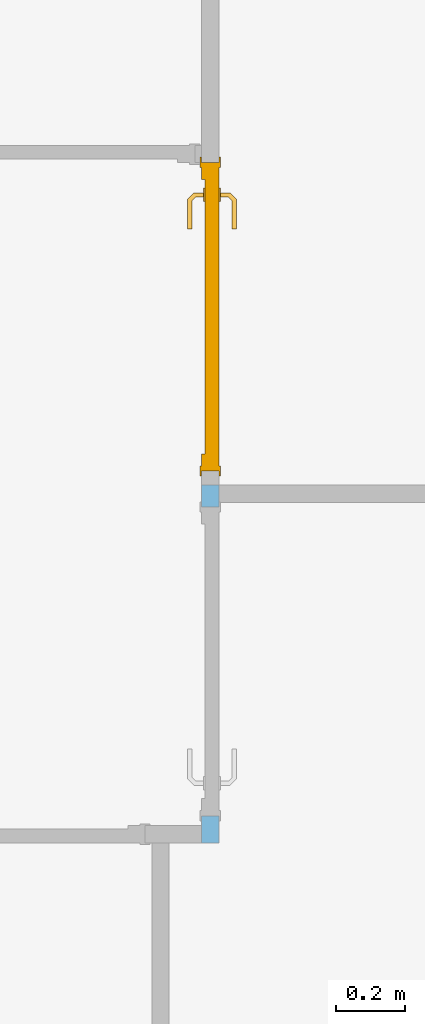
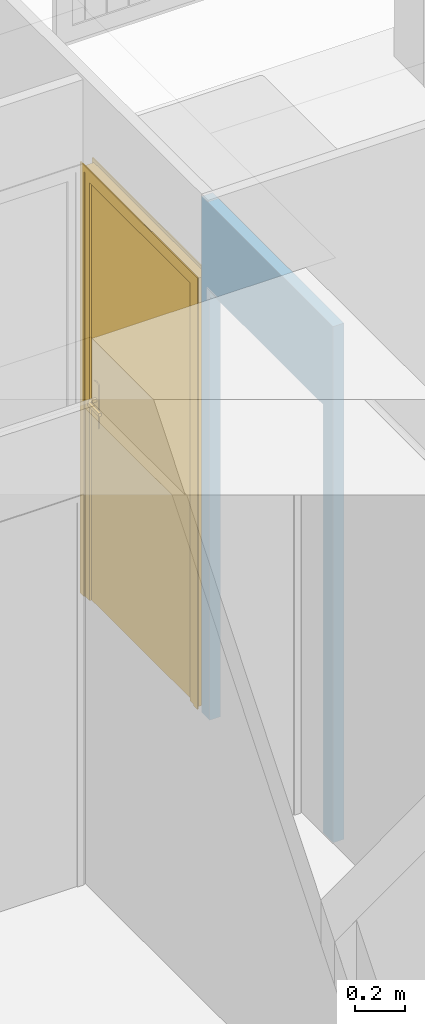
# One storey, part 6 of 11: 1 door, 2 openings, plus 1 element that does not belong to this part.
"""IFC2X3 building model written with IfcOpenShell, lengths in metres."""

from ifc_helpers import new_model, entity, si_unit, converted_unit, derived_unit, direction, frame, frame_2d, origin, place, context, subcontext, project, spatial, polyline, rectangle, extrude, clip, bounded_halfspace, faceted_brep, source, transform, mapped, material, material_list, layer, layer_set, layer_usage, type_object, type_shapes, element, fill, save


model = new_model("IFC2X3")

# Units and contexts
model_context = context("Model", 3, precision=1e-05, world=origin(), true_north=direction((6.12303176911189e-17, 1.0)))
body_context = subcontext(model_context, "Body", "Model", "MODEL_VIEW")
ifc_project = project(units=[si_unit("LENGTHUNIT", "METRE"), si_unit("AREAUNIT", "SQUARE_METRE"), si_unit("VOLUMEUNIT", "CUBIC_METRE"), converted_unit("PLANEANGLEUNIT", "DEGREE", entity("IfcRatioMeasure", 0.0174532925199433), si_unit("PLANEANGLEUNIT", "RADIAN"), dimensions=[0, 0, 0, 0, 0, 0, 0]), si_unit("MASSUNIT", "GRAM", prefix="KILO"), derived_unit("MASSDENSITYUNIT", [(si_unit("MASSUNIT", "GRAM", prefix="KILO"), 1), (si_unit("LENGTHUNIT", "METRE"), -3)]), derived_unit("MOMENTOFINERTIAUNIT", [(si_unit("LENGTHUNIT", "METRE"), 4)]), si_unit("TIMEUNIT", "SECOND"), si_unit("FREQUENCYUNIT", "HERTZ"), si_unit("THERMODYNAMICTEMPERATUREUNIT", "DEGREE_CELSIUS"), derived_unit("THERMALTRANSMITTANCEUNIT", [(si_unit("MASSUNIT", "GRAM", prefix="KILO"), 1), (si_unit("THERMODYNAMICTEMPERATUREUNIT", "KELVIN"), -1), (si_unit("TIMEUNIT", "SECOND"), -3)]), derived_unit("VOLUMETRICFLOWRATEUNIT", [(si_unit("LENGTHUNIT", "METRE"), 3), (si_unit("TIMEUNIT", "SECOND"), -1)]), si_unit("ELECTRICCURRENTUNIT", "AMPERE"), si_unit("ELECTRICVOLTAGEUNIT", "VOLT"), si_unit("POWERUNIT", "WATT"), si_unit("FORCEUNIT", "NEWTON", prefix="KILO"), si_unit("ILLUMINANCEUNIT", "LUX"), si_unit("LUMINOUSFLUXUNIT", "LUMEN"), si_unit("LUMINOUSINTENSITYUNIT", "CANDELA"), derived_unit("USERDEFINED", [(si_unit("MASSUNIT", "GRAM", prefix="KILO"), -1), (si_unit("LENGTHUNIT", "METRE"), -2), (si_unit("TIMEUNIT", "SECOND"), 3), (si_unit("LUMINOUSFLUXUNIT", "LUMEN"), 1)]), derived_unit("LINEARVELOCITYUNIT", [(si_unit("LENGTHUNIT", "METRE"), 1), (si_unit("TIMEUNIT", "SECOND"), -1)]), si_unit("PRESSUREUNIT", "PASCAL"), derived_unit("USERDEFINED", [(si_unit("LENGTHUNIT", "METRE"), -2), (si_unit("MASSUNIT", "GRAM", prefix="KILO"), 1), (si_unit("TIMEUNIT", "SECOND"), -2)]), derived_unit("LINEARFORCEUNIT", [(si_unit("MASSUNIT", "GRAM", prefix="KILO"), 1), (si_unit("LENGTHUNIT", "METRE"), 1), (si_unit("TIMEUNIT", "SECOND"), -2), (si_unit("LENGTHUNIT", "METRE"), -1)]), derived_unit("PLANARFORCEUNIT", [(si_unit("MASSUNIT", "GRAM", prefix="KILO"), 1), (si_unit("LENGTHUNIT", "METRE"), 1), (si_unit("TIMEUNIT", "SECOND"), -2), (si_unit("LENGTHUNIT", "METRE"), -2)])], contexts=[model_context])

# Site, building, storey
site_placement = place(None, origin())
site = spatial("IfcSite", under=ifc_project, at=site_placement, Name="Surface", CompositionType="ELEMENT")
building_placement = place(site_placement, origin())
building = spatial("IfcBuilding", under=site, at=building_placement, CompositionType="ELEMENT")
storey_placement = place(building_placement, frame((0.0, 0.0, 2.72)))
storey = spatial("IfcBuildingStorey", under=building, at=storey_placement, Name="02 ETG", CompositionType="ELEMENT", Elevation=2.72)

# Wall, openings, door
ifc_material_1 = material(Name="Mur par défaut")
ifc_layer = layer(ifc_material_1, 0.05)
ifc_layer_set = layer_set([ifc_layer], Name="Mur de base:Int. Plâtre 50 mm")
ifc_layer_usage = layer_usage(ifc_layer_set, "AXIS2", "NEGATIVE", 0.025)
wall_type = type_object("IfcWallType", Name="Mur de base:Int. Plâtre 50 mm", PredefinedType="STANDARD", material=ifc_layer_set)
wall_placement = place(storey_placement, frame((9.81156158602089, -0.105960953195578, 0.0), z_axis=(0.0, 0.0, 1.0), x_axis=(0.0, -1.0, 0.0)))
wall = element("IfcWallStandardCase", 1, at=wall_placement, inside=storey, type_object=wall_type, material=ifc_layer_usage, Name="Mur de base:Int. Plâtre 50 mm", ObjectType="Mur de base:Int. Plâtre 50 mm", context=body_context, shape_type="Clipping", body=[
    clip(extrude(rectangle(XDim=1.04249999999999, YDim=0.0500000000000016, at=frame_2d((0.521249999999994, -3.12250225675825e-16), x_axis=(-1.0, 0.0))), origin(), (0.0, 0.0, 1.0), 2.5), bounded_halfspace(frame((0.0, -0.0249999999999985, 2.5), z_axis=(0.0, 0.0, -1.0), x_axis=(0.0, 1.0, 0.0)), True, frame((0.0, -0.0249999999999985, 2.5)), polyline([(0.0, 0.0), (0.05, 0.0), (0.992499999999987, 0.0), (1.01749999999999, 0.0), (1.01749999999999, 0.0250000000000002), (0.0, 0.0249999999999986), (0.0, 0.0)]))),
])
opening_1_placement = place(wall_placement, frame((0.0637499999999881, -0.0250000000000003, 0.0)))
element("IfcOpeningElement", 2, at=opening_1_placement, cuts=wall, Name="Int. Simple:Porte pleine parement lisse bois prépeinte:1", ObjectType="Opening", context=body_context, shape_type="SweptSolid", body=[
    extrude(rectangle(XDim=2.075, YDim=0.9, at=frame_2d((1.0375, 0.45), x_axis=(1.0, 0.0))), frame((0.0, 0.0, 0.0), z_axis=(0.0, 1.0, 0.0), x_axis=(0.0, 0.0, 1.0)), (0.0, 0.0, 1.0), 0.05),
])
opening_2_placement = place(wall_placement, frame((-0.941050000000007, -0.0249999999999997, 0.0)))
opening_2 = element("IfcOpeningElement", 3, at=opening_2_placement, cuts=wall, Name="Int. Simple:Porte pleine parement lisse bois prépeinte:1", ObjectType="Opening", context=body_context, shape_type="SweptSolid", body=[
    extrude(rectangle(XDim=2.075, YDim=0.9, at=frame_2d((1.0375, 0.45), x_axis=(1.0, 0.0))), frame((0.0, 0.0, 0.0), z_axis=(0.0, 1.0, 0.0), x_axis=(0.0, 0.0, 1.0)), (0.0, 0.0, 1.0), 0.05),
])
ifc_material_2 = material(Name="Finition Peinture - Blanc satiné")
ifc_material_3 = material(Name="Bois - Panneau de porte")
ifc_material_4 = material(Name="Bois - Cadre de porte")
ifc_material_list_1 = material_list([ifc_material_2, ifc_material_3, ifc_material_4])
ifc_material_list_2 = material_list([ifc_material_2, ifc_material_4, ifc_material_3, ifc_material_4])
door_style = type_object("IfcDoorStyle", Name="Int. Simple:Porte pleine parement lisse bois prépeinte", ConstructionType="NOTDEFINED", OperationType="NOTDEFINED", ParameterTakesPrecedence=False, Sizeable=False, material=ifc_material_list_2)
shared_shape = source(origin(), body_context, "Body", "Brep", [
    faceted_brep([(0.895000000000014, -0.00500000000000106, 0.870000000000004), (0.895000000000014, -0.00500000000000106, 1.08), (0.885352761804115, -0.00500000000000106, 1.08399601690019), (0.875000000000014, -0.00500000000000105, 1.08535898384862), (0.864647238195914, -0.00500000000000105, 1.08399601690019), (0.855000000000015, -0.00500000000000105, 1.08), (0.855000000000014, -0.00500000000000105, 0.870000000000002), (0.864647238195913, -0.00500000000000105, 0.866003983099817), (0.875000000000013, -0.00500000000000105, 0.86464101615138), (0.885352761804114, -0.00500000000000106, 0.866003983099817), (0.895000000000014, 0.0, 1.08), (0.895000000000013, 0.0, 0.870000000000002), (0.885352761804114, 0.0, 0.866003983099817), (0.875000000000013, 0.0, 0.86464101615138), (0.864647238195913, 0.0, 0.866003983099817), (0.855000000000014, 0.0, 0.870000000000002), (0.855000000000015, 0.0, 1.08), (0.864647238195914, 0.0, 1.08399601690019), (0.875000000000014, 0.0, 1.08535898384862), (0.885352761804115, 0.0, 1.08399601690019)], [[[0, 1, 2, 3, 4, 5, 6, 7, 8, 9]], [[10, 11, 12, 13, 14, 15, 16, 17, 18, 19]], [[9, 12, 11, 0]], [[8, 13, 12, 9]], [[7, 14, 13, 8]], [[7, 6, 15, 14]], [[15, 6, 5, 16]], [[4, 17, 16, 5]], [[3, 18, 17, 4]], [[2, 19, 18, 3]], [[2, 1, 10, 19]], [[11, 10, 1, 0]]]),
    faceted_brep([(0.895000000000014, 0.0399999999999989, 0.870000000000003), (0.895000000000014, 0.0399999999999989, 1.08), (0.885352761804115, 0.0399999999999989, 1.08399601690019), (0.875000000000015, 0.0399999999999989, 1.08535898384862), (0.864647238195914, 0.0399999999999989, 1.08399601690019), (0.855000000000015, 0.0399999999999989, 1.08), (0.855000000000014, 0.0399999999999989, 0.870000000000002), (0.864647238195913, 0.0399999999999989, 0.866003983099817), (0.875000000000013, 0.0399999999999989, 0.86464101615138), (0.885352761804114, 0.0399999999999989, 0.866003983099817), (0.875000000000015, 0.0449999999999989, 1.08535898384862), (0.885352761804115, 0.0449999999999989, 1.08399601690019), (0.895000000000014, 0.0449999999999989, 1.08), (0.895000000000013, 0.0449999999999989, 0.870000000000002), (0.885352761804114, 0.0449999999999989, 0.866003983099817), (0.875000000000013, 0.0449999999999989, 0.86464101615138), (0.864647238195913, 0.0449999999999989, 0.866003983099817), (0.855000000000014, 0.0449999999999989, 0.870000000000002), (0.855000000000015, 0.0449999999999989, 1.08), (0.864647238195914, 0.0449999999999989, 1.08399601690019)], [[[0, 1, 2, 3, 4, 5, 6, 7, 8, 9]], [[10, 11, 12, 13, 14, 15, 16, 17, 18, 19]], [[4, 19, 18, 5]], [[3, 10, 19, 4]], [[2, 11, 10, 3]], [[2, 1, 12, 11]], [[13, 12, 1, 0]], [[9, 14, 13, 0]], [[8, 15, 14, 9]], [[7, 16, 15, 8]], [[7, 6, 17, 16]], [[17, 6, 5, 18]]]),
    faceted_brep([(0.872974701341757, -0.0050000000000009, 1.00778044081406), (0.877025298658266, -0.00500000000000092, 1.00778044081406), (0.881000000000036, -0.00500000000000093, 1.00699999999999), (0.881000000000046, -0.00500000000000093, 0.992999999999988), (0.877025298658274, -0.00500000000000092, 0.99221955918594), (0.872974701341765, -0.0050000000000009, 0.992219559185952), (0.868999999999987, -0.00500000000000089, 0.993000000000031), (0.868999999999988, -0.00500000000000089, 1.007), (0.877025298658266, -0.0310045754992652, 1.00778044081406), (0.881000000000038, -0.0326509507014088, 1.007), (0.872974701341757, -0.0293267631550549, 1.00778044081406), (0.859298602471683, -0.0430028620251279, 1.00778044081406), (0.860976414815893, -0.0470534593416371, 1.00778044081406), (0.868999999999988, -0.0276803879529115, 1.007), (0.868999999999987, -0.0276803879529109, 0.993000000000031), (0.872974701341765, -0.0293267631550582, 0.992219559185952), (0.877025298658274, -0.0310045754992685, 0.99221955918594), (0.860976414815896, -0.047053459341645, 0.99221955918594), (0.859298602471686, -0.0430028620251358, 0.992219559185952), (0.881000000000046, -0.0326509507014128, 0.992999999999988), (0.862622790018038, -0.0510281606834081, 1.007), (0.85765222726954, -0.0390281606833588, 1.007), (0.857652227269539, -0.0390281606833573, 0.993000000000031), (0.862622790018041, -0.0510281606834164, 0.992999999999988), (0.774981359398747, -0.0510281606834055, 1.007), (0.774981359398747, -0.0470534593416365, 1.00778044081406), (0.774981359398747, -0.0430028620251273, 1.00778044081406), (0.774981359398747, -0.0390281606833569, 1.00699999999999), (0.774981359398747, -0.0390281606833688, 0.993000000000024), (0.774981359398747, -0.0430028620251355, 0.992219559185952), (0.774981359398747, -0.0470534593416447, 0.99221955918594), (0.774981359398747, -0.0510281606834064, 0.992999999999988), (0.81713998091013, -0.045028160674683, 1.0078786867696), (0.822692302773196, -0.051028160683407, 1.007), (0.816316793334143, -0.039028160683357, 1.007), (0.816316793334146, -0.0390281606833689, 0.993000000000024), (0.817139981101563, -0.0450281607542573, 0.992121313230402), (0.822692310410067, -0.0510281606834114, 0.992999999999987)], [[[0, 1, 2, 3, 4, 5, 6, 7]], [[2, 1, 8, 9]], [[1, 0, 10, 11, 12, 8]], [[0, 7, 13, 10]], [[14, 13, 7, 6]], [[5, 15, 14, 6]], [[5, 4, 16, 17, 18, 15]], [[3, 19, 16, 4]], [[9, 19, 3, 2]], [[9, 8, 12, 20]], [[10, 13, 21, 11]], [[22, 21, 13, 14]], [[14, 15, 18, 22]], [[16, 19, 23, 17]], [[20, 23, 19, 9]], [[24, 25, 26, 27, 28, 29, 30, 31]], [[32, 25, 33]], [[33, 25, 24]], [[33, 20, 12]], [[11, 34, 32]], [[34, 11, 21]], [[27, 26, 34]], [[32, 26, 25]], [[32, 34, 26]], [[32, 33, 12]], [[11, 32, 12]], [[21, 22, 35, 28, 27, 34]], [[36, 29, 35]], [[30, 36, 37]], [[18, 35, 22]], [[29, 28, 35]], [[30, 37, 31]], [[37, 17, 23]], [[36, 17, 37]], [[36, 18, 17]], [[36, 35, 18]], [[29, 36, 30]], [[23, 20, 33, 24, 31, 37]]]),
    faceted_brep([(0.872974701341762, 0.0449999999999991, 0.992219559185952), (0.877025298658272, 0.0449999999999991, 0.99221955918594), (0.881000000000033, 0.044999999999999, 0.992999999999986), (0.881000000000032, 0.044999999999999, 1.007), (0.877025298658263, 0.0449999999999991, 1.00778044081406), (0.872974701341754, 0.0449999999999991, 1.00778044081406), (0.868999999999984, 0.0449999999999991, 1.007), (0.868999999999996, 0.0449999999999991, 0.993000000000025), (0.868999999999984, 0.067485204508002, 1.007), (0.868999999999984, 0.0674852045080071, 0.993000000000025), (0.872974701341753, 0.0691315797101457, 1.00778044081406), (0.877025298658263, 0.070809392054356, 1.00778044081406), (0.860838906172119, 0.0869957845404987, 1.00778044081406), (0.859161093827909, 0.0829451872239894, 1.00778044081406), (0.881000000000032, 0.0724557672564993, 1.007), (0.881000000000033, 0.0724557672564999, 0.992999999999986), (0.877025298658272, 0.0708093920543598, 0.99221955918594), (0.872974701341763, 0.0691315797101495, 0.992219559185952), (0.859161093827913, 0.0829451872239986, 0.992219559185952), (0.860838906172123, 0.0869957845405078, 0.99221955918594), (0.857514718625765, 0.0789704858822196, 1.007), (0.857514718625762, 0.0789704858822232, 0.993000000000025), (0.862485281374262, 0.0909704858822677, 1.007), (0.862485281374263, 0.0909704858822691, 0.992999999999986), (0.77495421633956, 0.0829451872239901, 1.00778044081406), (0.77495421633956, 0.0869957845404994, 1.00778044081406), (0.77495421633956, 0.0909704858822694, 1.007), (0.77495421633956, 0.0909704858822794, 0.992999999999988), (0.77495421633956, 0.086995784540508, 0.99221955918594), (0.77495421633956, 0.0829451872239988, 0.992219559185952), (0.77495421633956, 0.0789704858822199, 0.993000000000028), (0.77495421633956, 0.0789704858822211, 1.007), (0.816234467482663, 0.0789704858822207, 1.007), (0.816234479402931, 0.0789704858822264, 0.993000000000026), (0.817057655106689, 0.0849704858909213, 1.0078786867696), (0.822554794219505, 0.0909704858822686, 1.007), (0.822554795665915, 0.0909704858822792, 0.992999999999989), (0.817057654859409, 0.0849704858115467, 0.992121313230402)], [[[0, 1, 2, 3, 4, 5, 6, 7]], [[8, 9, 7, 6]], [[5, 10, 8, 6]], [[5, 4, 11, 12, 13, 10]], [[3, 14, 11, 4]], [[14, 3, 2, 15]], [[2, 1, 16, 15]], [[1, 0, 17, 18, 19, 16]], [[0, 7, 9, 17]], [[20, 21, 9, 8]], [[8, 10, 13, 20]], [[14, 22, 12, 11]], [[23, 22, 14, 15]], [[15, 16, 19, 23]], [[17, 9, 21, 18]], [[24, 25, 26, 27, 28, 29, 30, 31]], [[21, 20, 32, 31, 30, 33]], [[34, 24, 32]], [[25, 34, 35]], [[13, 32, 20]], [[24, 31, 32]], [[25, 35, 26]], [[35, 12, 22]], [[34, 12, 35]], [[34, 13, 12]], [[34, 32, 13]], [[24, 34, 25]], [[22, 23, 36, 27, 26, 35]], [[37, 28, 36]], [[36, 28, 27]], [[36, 23, 19]], [[18, 33, 37]], [[33, 18, 21]], [[30, 29, 33]], [[37, 29, 28]], [[37, 33, 29]], [[37, 36, 19]], [[18, 37, 19]]]),
    faceted_brep([(0.935000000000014, 0.04, 2.04), (0.935000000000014, 0.04, 0.0), (0.105000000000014, 0.04, 0.0), (0.105000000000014, 0.04, 2.04), (0.935000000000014, 0.0, 2.04), (0.105000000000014, 0.0, 2.04), (0.105000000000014, 0.0, 0.0), (0.935000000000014, 0.0, 0.0)], [[[0, 1, 2, 3]], [[4, 5, 6, 7]], [[3, 5, 4, 0]], [[2, 6, 5, 3]], [[1, 7, 6, 2]], [[0, 4, 7, 1]]]),
    faceted_brep([(0.970000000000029, 0.0, 0.0), (0.935000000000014, 0.0, 0.0), (0.935000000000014, 0.040000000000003, 0.0), (0.920000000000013, 0.040000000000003, 0.0), (0.920000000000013, 0.050000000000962, 0.0), (0.970000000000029, 0.050000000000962, 0.0), (0.970000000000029, 0.050000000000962, 2.07500000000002), (0.970000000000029, 0.0, 2.07500000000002), (0.920000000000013, 0.050000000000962, 2.025), (0.120000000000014, 0.050000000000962, 2.025), (0.120000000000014, 0.050000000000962, 0.0), (0.0699999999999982, 0.050000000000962, 0.0), (0.0699999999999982, 0.050000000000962, 2.07500000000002), (0.920000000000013, 0.040000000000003, 2.025), (0.935000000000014, 0.040000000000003, 2.04), (0.105000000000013, 0.040000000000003, 2.04), (0.105000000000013, 0.040000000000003, 0.0), (0.120000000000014, 0.040000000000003, 0.0), (0.120000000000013, 0.040000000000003, 2.025), (0.935000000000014, 0.0, 2.04), (0.0699999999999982, 0.0, 2.07500000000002), (0.0699999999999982, 0.0, 0.0), (0.105000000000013, 0.0, 0.0), (0.105000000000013, 0.0, 2.04)], [[[0, 1, 2, 3, 4, 5]], [[5, 6, 7, 0]], [[4, 8, 9, 10, 11, 12, 6, 5]], [[3, 13, 8, 4]], [[2, 14, 15, 16, 17, 18, 13, 3]], [[1, 19, 14, 2]], [[0, 7, 20, 21, 22, 23, 19, 1]], [[12, 11, 21, 20]], [[21, 11, 10, 17, 16, 22]], [[18, 17, 10, 9]], [[23, 22, 16, 15]], [[6, 12, 20, 7]], [[13, 18, 9, 8]], [[19, 23, 15, 14]]]),
    faceted_brep([(0.955000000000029, 0.050000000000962, 0.0), (0.955000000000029, 0.055000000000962, 0.0), (0.985000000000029, 0.055000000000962, 0.0), (0.985000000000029, 0.050000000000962, 0.0), (0.985000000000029, 0.050000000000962, 2.09000000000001), (0.0550000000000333, 0.050000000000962, 2.09000000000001), (0.0550000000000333, 0.050000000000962, 0.0), (0.0850000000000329, 0.050000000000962, 0.0), (0.0850000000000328, 0.050000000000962, 2.06000000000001), (0.955000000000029, 0.050000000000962, 2.06000000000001), (0.985000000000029, 0.055000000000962, 2.09000000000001), (0.955000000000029, 0.055000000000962, 2.06000000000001), (0.0850000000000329, 0.055000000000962, 2.06000000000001), (0.0850000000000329, 0.055000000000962, 0.0), (0.055000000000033, 0.055000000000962, 0.0), (0.0550000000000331, 0.055000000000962, 2.09000000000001)], [[[0, 1, 2, 3]], [[3, 4, 5, 6, 7, 8, 9, 0]], [[2, 10, 4, 3]], [[1, 11, 12, 13, 14, 15, 10, 2]], [[0, 9, 11, 1]], [[7, 6, 14, 13]], [[8, 7, 13, 12]], [[15, 14, 6, 5]], [[10, 15, 5, 4]], [[9, 8, 12, 11]]]),
    faceted_brep([(0.985000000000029, -0.005, 0.0), (0.985000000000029, -0.005, 2.09000000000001), (0.0550000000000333, -0.005, 2.09000000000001), (0.0550000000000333, -0.005, 0.0), (0.0850000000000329, -0.005, 0.0), (0.0850000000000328, -0.005, 2.06000000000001), (0.955000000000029, -0.005, 2.06000000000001), (0.955000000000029, -0.005, 0.0), (0.985000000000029, 0.0, 0.0), (0.985000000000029, 0.0, 2.09000000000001), (0.955000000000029, 0.0, 0.0), (0.955000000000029, 0.0, 2.06000000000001), (0.0850000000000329, 0.0, 2.06000000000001), (0.0850000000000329, 0.0, 0.0), (0.055000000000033, 0.0, 0.0), (0.0550000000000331, 0.0, 2.09000000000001)], [[[0, 1, 2, 3, 4, 5, 6, 7]], [[8, 9, 1, 0]], [[10, 11, 12, 13, 14, 15, 9, 8]], [[7, 6, 11, 10]], [[5, 4, 13, 12]], [[15, 14, 3, 2]], [[9, 15, 2, 1]], [[6, 5, 12, 11]], [[4, 3, 14, 13]], [[7, 10, 8, 0]]]),
])
type_shapes(door_style, [shared_shape])
door_placement = place(opening_2_placement, frame((0.970000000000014, 0.0500000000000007, 0.0), z_axis=(0.0, 0.0, 1.0), x_axis=(-1.0, 0.0, 0.0)))
door = element("IfcDoor", 4, at=door_placement, inside=storey, type_object=door_style, material=ifc_material_list_1, Name="Int. Simple:Porte pleine parement lisse bois prépeinte", ObjectType="Int. Simple:Porte pleine parement lisse bois prépeinte", OverallHeight=2.075, OverallWidth=0.9, context=body_context, shape_type="MappedRepresentation", body=[
    mapped(shared_shape, transform((0.0, 0.0, 0.0), scale=1.0)),
])
fill(opening_2, door)

save(model, "model.ifc")
